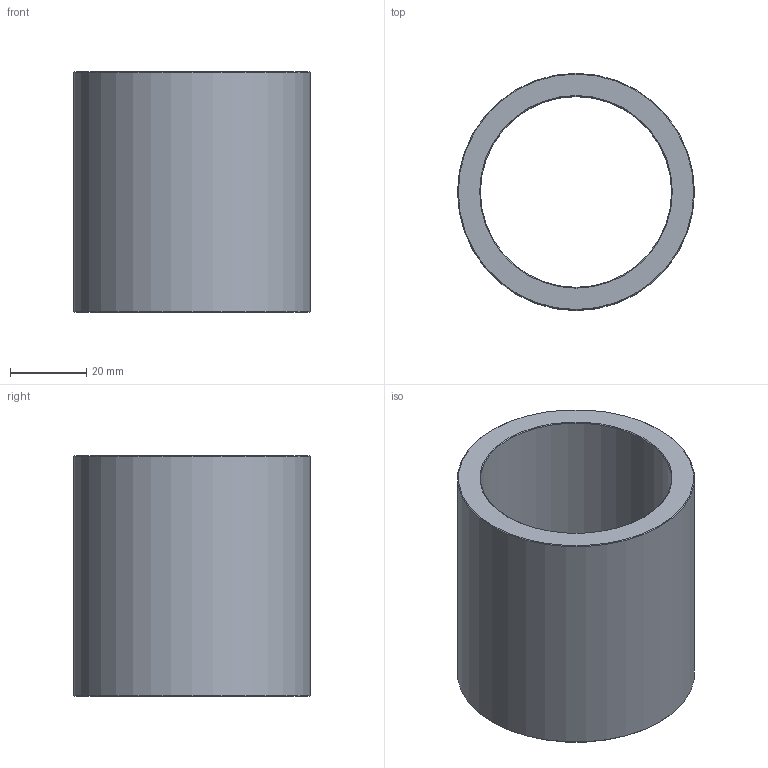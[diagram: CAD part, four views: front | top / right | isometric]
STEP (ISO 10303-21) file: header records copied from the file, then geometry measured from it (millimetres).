
FILE_DESCRIPTION(('STEP AP203'),'1');
FILE_NAME('C:/Users/Rodrigo/Desktop/GA6.050.063-1.step','2016-11-08T11:52:46',(' '),(' '),'Spatial InterOp 3D',' ',' ');
FILE_SCHEMA(('CONFIG_CONTROL_DESIGN'));
Length unit declared in the file: millimetre
Products named in the file (1): 1
Bounding box: 62 x 62 x 63 mm (x, y, z)
Volume: 66487.2 mm3; surface area: 24195.8 mm2
Topology: 1 solids, 1 shells, 8 faces, 14 edges, 8 vertices
Faces by surface type: cone 4, cylinder 2, plane 2
Full cylindrical faces by diameter (mm): 50 x1, 62 x1
Entity records: 212 total; most frequent: DIRECTION 34, CARTESIAN_POINT 25, AXIS2_PLACEMENT_3D 17, EDGE_LOOP 16, ORIENTED_EDGE 16, FACE_OUTER_BOUND 10, ADVANCED_FACE 8, EDGE_CURVE 8
